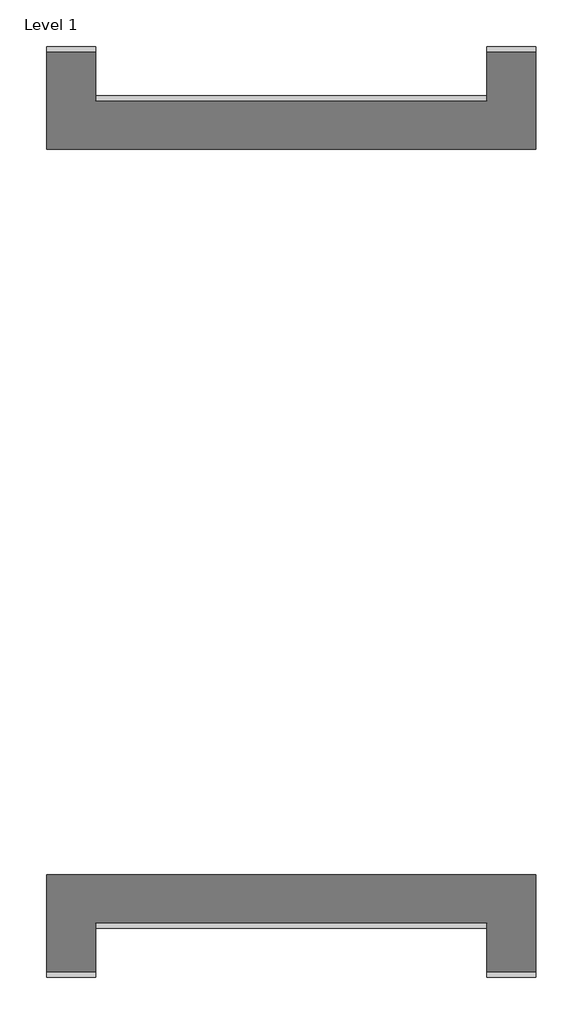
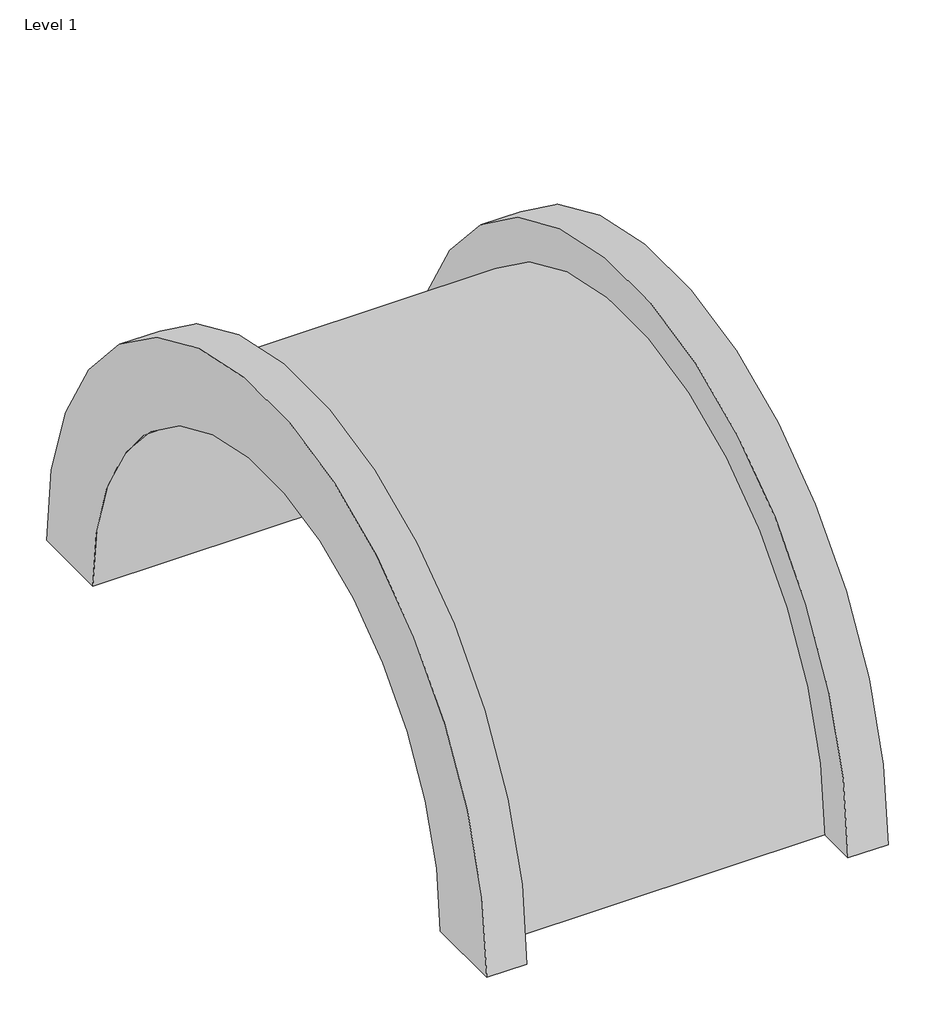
# One storey: 1 proxy.
"""IFC4 building model written with IfcOpenShell, lengths in millimetres."""

from ifc_helpers import new_model, si_unit, frame, origin, place, context, project, spatial, polyline, circle_curve, element, save
from ifc_brep_helpers import plane_surface, cylinder_surface, revolved_surface, advanced_brep

model = new_model("IFC4")

# Units and contexts
model_context = context("Model", 3, world=origin())
ifc_project = project(units=[si_unit("LENGTHUNIT", "METRE", prefix="MILLI")], contexts=[model_context])

# Site, building, storey
site = spatial("IfcSite", under=ifc_project)
building = spatial("IfcBuilding", under=site)
storey = spatial("IfcBuildingStorey", under=building, Name="Level 1", Elevation=0.0)

# Proxy
placement = place(None, origin())
element("IfcBuildingElementProxy", 1, Name="Mass 1 : Mass 1", ObjectType="Mass 1 : Mass 1", at=placement, inside=storey, context=model_context, shape_type="AdvancedBrep", body=[
    advanced_brep(
    [(-9502.9271157, 2143.2640287, 0.0), (2689.0728843, 2143.2640287, 0.0), (2689.0728843, -295.1359713, 0.0), (1469.8728843, -295.1359713, 0.0), (1469.8728843, 924.0640287, 0.0), (-8283.7271157, 924.0640287, 0.0), (-8283.7271157, -295.1359713, 0.0), (-9502.9271157, -295.1359713, 0.0), (-9502.9271157, 20431.2640287, 0.0), (-9502.9271157, 22869.6640287, 0.0), (-8283.7271157, 22869.6640287, 0.0), (-8283.7271157, 21650.4640287, 0.0), (1469.8728843, 21650.4640287, 0.0), (1469.8728843, 22869.6640287, 0.0), (2689.0728843, 22869.6640287, 0.0), (2689.0728843, 20431.2640287, 0.0)],
    [
        (0, 1),
        (1, 2),
        (2, 3),
        (3, 4),
        (4, 5),
        (5, 6),
        (6, 7),
        (7, 0),
        (8, 9),
        (9, 10),
        (10, 11),
        (11, 12),
        (12, 13),
        (13, 14),
        (14, 15),
        (15, 8),
        (15, 1, circle_curve(frame((2689.0728843, 11287.2640287, 0.0), z_axis=(1.0, 0.0, 0.0), x_axis=(0.0, -1.0, 0.0)), 9144.0)),
        (0, 8, circle_curve(frame((-9502.9271157, 11287.2640287, 0.0), z_axis=(-1.0, 0.0, 0.0), x_axis=(0.0, -1.0, 0.0)), 9144.0)),
        (14, 2, circle_curve(frame((2689.0728843, 11287.2640287, 0.0), z_axis=(1.0, 0.0, 0.0), x_axis=(0.0, -1.0, 0.0)), 11582.4)),
        (13, 3, circle_curve(frame((1469.8728843, 11287.2640287, 0.0), z_axis=(1.0, 0.0, 0.0), x_axis=(0.0, -1.0, 0.0)), 11582.4)),
        (12, 4, circle_curve(frame((1469.8728843, 11287.2640287, 0.0), z_axis=(1.0, 0.0, 0.0), x_axis=(0.0, -1.0, 0.0)), 10363.2)),
        (11, 5, circle_curve(frame((-8283.7271157, 11287.2640287, 0.0), z_axis=(1.0, 0.0, 0.0), x_axis=(0.0, -1.0, 0.0)), 10363.2)),
        (10, 6, circle_curve(frame((-8283.7271157, 11287.2640287, 0.0), z_axis=(1.0, 0.0, 0.0), x_axis=(0.0, -1.0, 0.0)), 11582.4)),
        (9, 7, circle_curve(frame((-9502.9271157, 11287.2640287, 0.0), z_axis=(1.0, 0.0, 0.0), x_axis=(0.0, -1.0, 0.0)), 11582.4)),
    ],
    [
        plane_surface(frame((-12855.7271157, 11287.2640287, 0.0), z_axis=(0.0, 0.0, -1.0), x_axis=(0.0, -1.0, 0.0))),
        plane_surface(frame((-12855.7271157, 11287.2640287, 0.0), z_axis=(0.0, 0.0, -1.0), x_axis=(0.0, 1.0, 0.0))),
        revolved_surface(polyline([(2689.0728842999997, 2143.2640286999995, 0.0), (-9502.9271157, 2143.2640286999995, 0.0)]), (-12855.7271157, 11287.2640287, 0.0), (1.0, 0.0, 0.0)),
        plane_surface(frame((2689.0728843, 11287.2640287, 0.0), z_axis=(1.0, 0.0, 0.0), x_axis=(0.0, -1.0, 0.0))),
        cylinder_surface(frame((-12855.7271157, 11287.2640287, 0.0), z_axis=(1.0, 0.0, 0.0), x_axis=(0.0, -1.0, 0.0)), 11582.4),
        plane_surface(frame((1469.8728843, 11287.2640287, 0.0), z_axis=(-1.0, 0.0, 0.0), x_axis=(0.0, -1.0, 0.0))),
        cylinder_surface(frame((-12855.7271157, 11287.2640287, 0.0), z_axis=(1.0, 0.0, 0.0), x_axis=(0.0, -1.0, 0.0)), 10363.2),
        plane_surface(frame((-8283.7271157, 11287.2640287, 0.0), z_axis=(1.0, 0.0, 0.0), x_axis=(0.0, -1.0, 0.0))),
        plane_surface(frame((-9502.9271157, 11287.2640287, 0.0), z_axis=(-1.0, 0.0, 0.0), x_axis=(0.0, -1.0, 0.0))),
    ],
    [
        (0, [[1, 2, 3, 4, 5, 6, 7, 8]]),
        (1, [[9, 10, 11, 12, 13, 14, 15, 16]]),
        (2, [[17, -1, 18, -16]]),
        (3, [[19, -2, -17, -15]]),
        (4, [[20, -3, -19, -14]]),
        (5, [[21, -4, -20, -13]]),
        (6, [[22, -5, -21, -12]]),
        (7, [[23, -6, -22, -11]]),
        (4, [[24, -7, -23, -10]]),
        (8, [[-18, -8, -24, -9]]),
    ],
),
])

save(model, "model.ifc")
